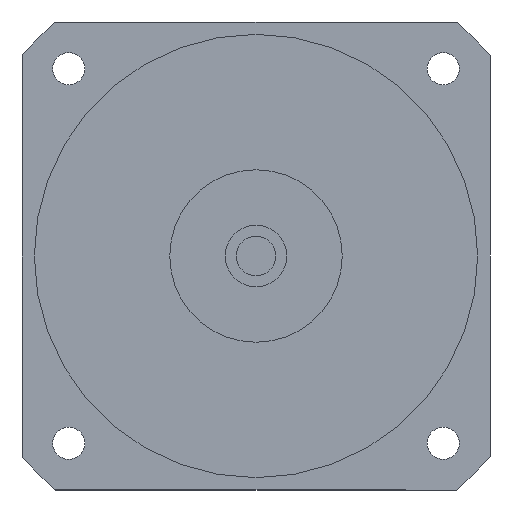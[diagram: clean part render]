
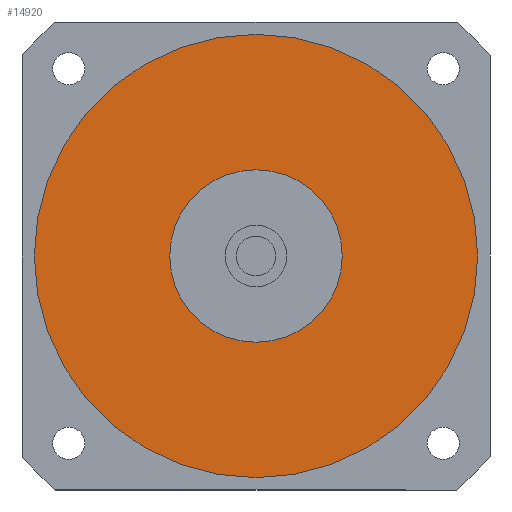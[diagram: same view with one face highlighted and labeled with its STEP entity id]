
A CAD part, left-side view. The second image highlights one B-rep face of the part: STEP entity #14920.
In plain terms, the highlighted planar face has unit normal (-1, 0, 0) as drawn and (0, 0, -1) by its records, which use the part's own axes.
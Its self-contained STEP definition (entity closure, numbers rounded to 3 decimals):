
#14340=CARTESIAN_POINT('',(90.,0.,-55.2));
#14350=VERTEX_POINT('',#14340);
#14440=CARTESIAN_POINT('',(-90.,0.,-55.2));
#14450=VERTEX_POINT('',#14440);
#14480=CARTESIAN_POINT('',(0.,0.,
-55.2));
#14490=DIRECTION('',(0.,0.,1.));
#14500=DIRECTION('',(0.,1.,0.));
#14510=AXIS2_PLACEMENT_3D('',#14480,#14490,#14500);
#14520=CIRCLE('',#14510,90.);
#14530=CARTESIAN_POINT('',(0.,90.,-55.2));
#14540=VERTEX_POINT('',#14530);
#14550=EDGE_CURVE('',#14540,#14450,#14520,.T.);
#14570=EDGE_CURVE('',#14350,#14540,#14520,.T.);
#14620=CARTESIAN_POINT('',(0.,0.,
-55.2));
#14630=DIRECTION('',(0.,0.,1.));
#14640=DIRECTION('',(-1.,0.,0.));
#14650=AXIS2_PLACEMENT_3D('',#14620,#14630,#14640);
#14660=PLANE('',#14650);
#14670=CARTESIAN_POINT('',(0.,0.,
-55.2));
#14680=DIRECTION('',(0.,0.,1.));
#14690=DIRECTION('',(0.,1.,0.));
#14700=AXIS2_PLACEMENT_3D('',#14670,#14680,#14690);
#14710=CIRCLE('',#14700,35.);
#14720=CARTESIAN_POINT('',(-35.,0.,-55.2));
#14730=VERTEX_POINT('',#14720);
#14740=CARTESIAN_POINT('',(35.,0.,-55.2));
#14750=VERTEX_POINT('',#14740);
#14760=EDGE_CURVE('',#14730,#14750,#14710,.T.);
#14770=ORIENTED_EDGE('',*,*,#14760,.T.);
#14780=CARTESIAN_POINT('',(0.,35.,-55.2));
#14790=VERTEX_POINT('',#14780);
#14800=EDGE_CURVE('',#14790,#14730,#14710,.T.);
#14810=ORIENTED_EDGE('',*,*,#14800,.T.);
#14820=EDGE_CURVE('',#14750,#14790,#14710,.T.);
#14830=ORIENTED_EDGE('',*,*,#14820,.T.);
#14840=EDGE_LOOP('',(#14830,#14810,#14770));
#14850=FACE_BOUND('',#14840,.T.);
#14860=ORIENTED_EDGE('',*,*,#14550,.F.);
#14870=EDGE_CURVE('',#14450,#14350,#14520,.T.);
#14880=ORIENTED_EDGE('',*,*,#14870,.F.);
#14890=ORIENTED_EDGE('',*,*,#14570,.F.);
#14900=EDGE_LOOP('',(#14890,#14880,#14860));
#14910=FACE_OUTER_BOUND('',#14900,.T.);
#14920=ADVANCED_FACE('',(#14850,#14910),#14660,.F.);
